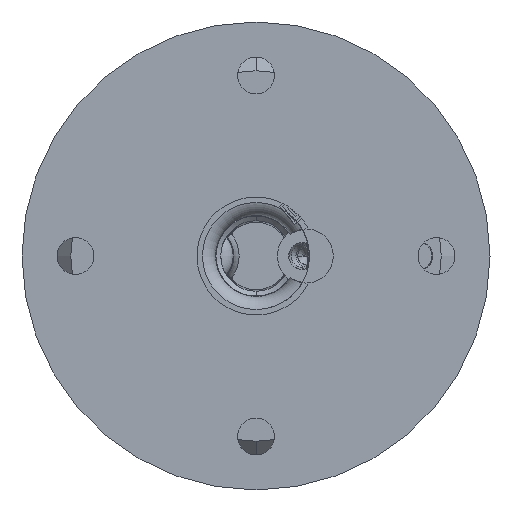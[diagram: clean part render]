
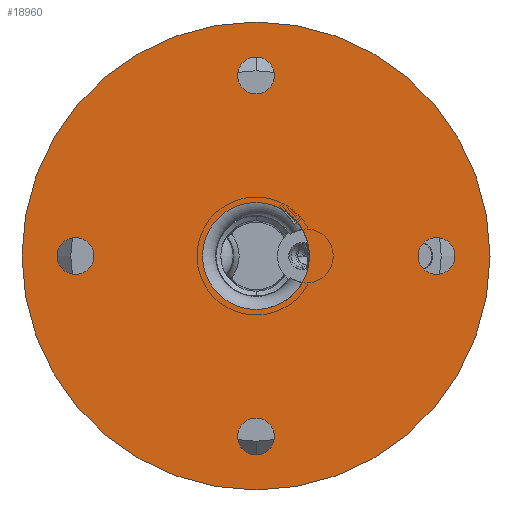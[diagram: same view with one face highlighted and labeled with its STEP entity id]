
A CAD part, front view. The second image highlights one B-rep face of the part: STEP entity #18960.
In plain terms, the highlighted planar face has unit normal (0, -1, 0).
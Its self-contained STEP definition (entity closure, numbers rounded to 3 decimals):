
#3087=CARTESIAN_POINT('',(0.,-395.5,0.));
#3088=DIRECTION('',(0.,1.,0.));
#3089=DIRECTION('',(0.,0.,1.));
#3090=AXIS2_PLACEMENT_3D('',#3087,#3088,#3089);
#3092=CARTESIAN_POINT('',(0.,-395.5,0.));
#3093=DIRECTION('',(0.,1.,0.));
#3094=DIRECTION('',(0.,0.,-1.));
#3095=AXIS2_PLACEMENT_3D('',#3092,#3093,#3094);
#3097=CARTESIAN_POINT('',(0.,-395.5,27.));
#3098=DIRECTION('',(0.,-1.,0.));
#3099=DIRECTION('',(0.,0.,1.));
#3100=AXIS2_PLACEMENT_3D('',#3097,#3098,#3099);
#3102=CARTESIAN_POINT('',(0.,-395.5,27.));
#3103=DIRECTION('',(0.,-1.,0.));
#3104=DIRECTION('',(0.,0.,-1.));
#3105=AXIS2_PLACEMENT_3D('',#3102,#3103,#3104);
#3107=CARTESIAN_POINT('',(0.,-395.5,-27.));
#3108=DIRECTION('',(0.,-1.,0.));
#3109=DIRECTION('',(0.,0.,1.));
#3110=AXIS2_PLACEMENT_3D('',#3107,#3108,#3109);
#3112=CARTESIAN_POINT('',(0.,-395.5,-27.));
#3113=DIRECTION('',(0.,-1.,0.));
#3114=DIRECTION('',(0.,0.,-1.));
#3115=AXIS2_PLACEMENT_3D('',#3112,#3113,#3114);
#3117=CARTESIAN_POINT('',(0.,-395.5,0.));
#3118=DIRECTION('',(0.,-1.,0.));
#3119=DIRECTION('',(0.,0.,1.));
#3120=AXIS2_PLACEMENT_3D('',#3117,#3118,#3119);
#3122=CARTESIAN_POINT('',(0.,-395.5,0.));
#3123=DIRECTION('',(0.,-1.,0.));
#3124=DIRECTION('',(0.,0.,-1.));
#3125=AXIS2_PLACEMENT_3D('',#3122,#3123,#3124);
#3127=CARTESIAN_POINT('',(27.,-395.5,0.));
#3128=DIRECTION('',(0.,-1.,0.));
#3129=DIRECTION('',(0.,0.,1.));
#3130=AXIS2_PLACEMENT_3D('',#3127,#3128,#3129);
#3132=CARTESIAN_POINT('',(27.,-395.5,0.));
#3133=DIRECTION('',(0.,-1.,0.));
#3134=DIRECTION('',(0.,0.,-1.));
#3135=AXIS2_PLACEMENT_3D('',#3132,#3133,#3134);
#3137=CARTESIAN_POINT('',(-27.,-395.5,0.));
#3138=DIRECTION('',(0.,-1.,0.));
#3139=DIRECTION('',(0.,0.,1.));
#3140=AXIS2_PLACEMENT_3D('',#3137,#3138,#3139);
#3142=CARTESIAN_POINT('',(-27.,-395.5,0.));
#3143=DIRECTION('',(0.,-1.,0.));
#3144=DIRECTION('',(0.,0.,-1.));
#3145=AXIS2_PLACEMENT_3D('',#3142,#3143,#3144);
#14505=CARTESIAN_POINT('',(0.,-395.5,-8.));
#14506=CARTESIAN_POINT('',(0.,-395.5,8.));
#14507=VERTEX_POINT('',#14505);
#14508=VERTEX_POINT('',#14506);
#14509=CARTESIAN_POINT('',(0.,-395.5,35.));
#14510=CARTESIAN_POINT('',(0.,-395.5,-35.));
#14511=VERTEX_POINT('',#14509);
#14512=VERTEX_POINT('',#14510);
#14513=CARTESIAN_POINT('',(0.,-395.5,29.75));
#14514=CARTESIAN_POINT('',(0.,-395.5,24.25));
#14515=VERTEX_POINT('',#14513);
#14516=VERTEX_POINT('',#14514);
#14517=CARTESIAN_POINT('',(0.,-395.5,-24.25));
#14518=CARTESIAN_POINT('',(0.,-395.5,-29.75));
#14519=VERTEX_POINT('',#14517);
#14520=VERTEX_POINT('',#14518);
#14521=CARTESIAN_POINT('',(27.,-395.5,2.75));
#14522=CARTESIAN_POINT('',(27.,-395.5,-2.75));
#14523=VERTEX_POINT('',#14521);
#14524=VERTEX_POINT('',#14522);
#14525=CARTESIAN_POINT('',(-27.,-395.5,2.75));
#14526=CARTESIAN_POINT('',(-27.,-395.5,-2.75));
#14527=VERTEX_POINT('',#14525);
#14528=VERTEX_POINT('',#14526);
#18921=CARTESIAN_POINT('',(0.,-395.5,0.));
#18922=DIRECTION('',(0.,1.,0.));
#18923=DIRECTION('',(0.,0.,1.));
#18924=AXIS2_PLACEMENT_3D('',#18921,#18922,#18923);
#18925=PLANE('',#18924);
#18926=ORIENTED_EDGE('',*,*,#18910,.T.);
#18927=ORIENTED_EDGE('',*,*,#18889,.T.);
#18928=EDGE_LOOP('',(#18926,#18927));
#18929=FACE_OUTER_BOUND('',#18928,.F.);
#18931=ORIENTED_EDGE('',*,*,#18930,.T.);
#18933=ORIENTED_EDGE('',*,*,#18932,.T.);
#18934=EDGE_LOOP('',(#18931,#18933));
#18935=FACE_BOUND('',#18934,.F.);
#18937=ORIENTED_EDGE('',*,*,#18936,.T.);
#18939=ORIENTED_EDGE('',*,*,#18938,.T.);
#18940=EDGE_LOOP('',(#18937,#18939));
#18941=FACE_BOUND('',#18940,.F.);
#18943=ORIENTED_EDGE('',*,*,#18942,.T.);
#18945=ORIENTED_EDGE('',*,*,#18944,.T.);
#18946=EDGE_LOOP('',(#18943,#18945));
#18947=FACE_BOUND('',#18946,.F.);
#18949=ORIENTED_EDGE('',*,*,#18948,.T.);
#18951=ORIENTED_EDGE('',*,*,#18950,.T.);
#18952=EDGE_LOOP('',(#18949,#18951));
#18953=FACE_BOUND('',#18952,.F.);
#18955=ORIENTED_EDGE('',*,*,#18954,.T.);
#18957=ORIENTED_EDGE('',*,*,#18956,.T.);
#18958=EDGE_LOOP('',(#18955,#18957));
#18959=FACE_BOUND('',#18958,.F.);
#3091=CIRCLE('',#3090,35.);
#3096=CIRCLE('',#3095,35.);
#3101=CIRCLE('',#3100,2.75);
#3106=CIRCLE('',#3105,2.75);
#3111=CIRCLE('',#3110,2.75);
#3116=CIRCLE('',#3115,2.75);
#3121=CIRCLE('',#3120,8.);
#3126=CIRCLE('',#3125,8.);
#3131=CIRCLE('',#3130,2.75);
#3136=CIRCLE('',#3135,2.75);
#3141=CIRCLE('',#3140,2.75);
#3146=CIRCLE('',#3145,2.75);
#18889=EDGE_CURVE('',#14512,#14511,#3096,.T.);
#18910=EDGE_CURVE('',#14511,#14512,#3091,.T.);
#18930=EDGE_CURVE('',#14515,#14516,#3101,.T.);
#18932=EDGE_CURVE('',#14516,#14515,#3106,.T.);
#18936=EDGE_CURVE('',#14519,#14520,#3111,.T.);
#18938=EDGE_CURVE('',#14520,#14519,#3116,.T.);
#18942=EDGE_CURVE('',#14508,#14507,#3121,.T.);
#18944=EDGE_CURVE('',#14507,#14508,#3126,.T.);
#18948=EDGE_CURVE('',#14523,#14524,#3131,.T.);
#18950=EDGE_CURVE('',#14524,#14523,#3136,.T.);
#18954=EDGE_CURVE('',#14527,#14528,#3141,.T.);
#18956=EDGE_CURVE('',#14528,#14527,#3146,.T.);
#18960=ADVANCED_FACE('',(#18929,#18935,#18941,#18947,#18953,#18959),#18925,.F.);
